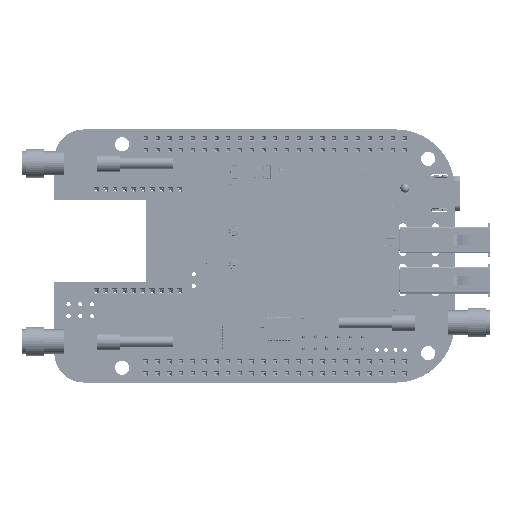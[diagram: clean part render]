
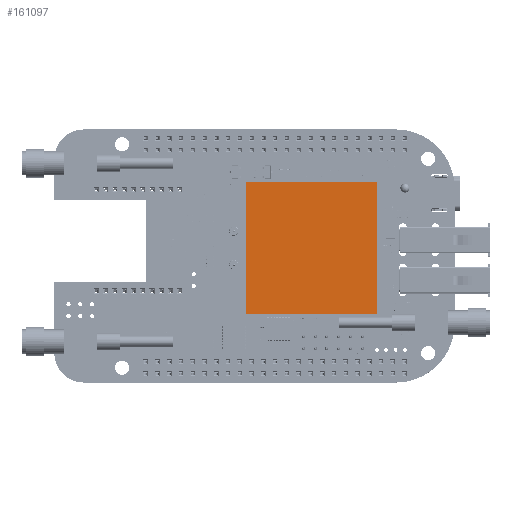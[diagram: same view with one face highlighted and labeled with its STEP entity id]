
A CAD part, top view. The second image highlights one B-rep face of the part: STEP entity #161097.
In plain terms, the highlighted planar face has unit normal (0, 0, 1).
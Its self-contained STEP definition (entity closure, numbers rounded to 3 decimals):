
#160857 = VERTEX_POINT('',#160858);
#160858 = CARTESIAN_POINT('',(0.278,26.392,3.825));
#160867 = PLANE('',#160868);
#160868 = AXIS2_PLACEMENT_3D('',#160869,#160870,#160871);
#160869 = CARTESIAN_POINT('',(0.278,26.392,3.825));
#160870 = DIRECTION('',(0.,-1.,0.));
#160871 = DIRECTION('',(0.,0.,-1.));
#160879 = PLANE('',#160880);
#160880 = AXIS2_PLACEMENT_3D('',#160881,#160882,#160883);
#160881 = CARTESIAN_POINT('',(0.278,26.392,1.575));
#160882 = DIRECTION('',(1.,0.,0.));
#160883 = DIRECTION('',(0.,0.,1.));
#160891 = EDGE_CURVE('',#160892,#160857,#160894,.T.);
#160892 = VERTEX_POINT('',#160893);
#160893 = CARTESIAN_POINT('',(28.678,26.392,3.825));
#160894 = SURFACE_CURVE('',#160895,(#160899,#160906),.PCURVE_S1.);
#160895 = LINE('',#160896,#160897);
#160896 = CARTESIAN_POINT('',(14.478,26.392,3.825));
#160897 = VECTOR('',#160898,1.);
#160898 = DIRECTION('',(-1.,0.,0.));
#160899 = PCURVE('',#160867,#160900);
#160900 = DEFINITIONAL_REPRESENTATION('',(#160901),#160905);
#160901 = LINE('',#160902,#160903);
#160902 = CARTESIAN_POINT('',(0.,14.2));
#160903 = VECTOR('',#160904,1.);
#160904 = DIRECTION('',(0.,-1.));
#160905 = ( GEOMETRIC_REPRESENTATION_CONTEXT(2) 
PARAMETRIC_REPRESENTATION_CONTEXT() REPRESENTATION_CONTEXT('2D SPACE',''
  ) );
#160906 = PCURVE('',#160907,#160912);
#160907 = PLANE('',#160908);
#160908 = AXIS2_PLACEMENT_3D('',#160909,#160910,#160911);
#160909 = CARTESIAN_POINT('',(0.278,-2.008,3.825));
#160910 = DIRECTION('',(0.,0.,-1.));
#160911 = DIRECTION('',(0.,1.,0.));
#160912 = DEFINITIONAL_REPRESENTATION('',(#160913),#160917);
#160913 = LINE('',#160914,#160915);
#160914 = CARTESIAN_POINT('',(28.4,14.2));
#160915 = VECTOR('',#160916,1.);
#160916 = DIRECTION('',(0.,-1.));
#160917 = ( GEOMETRIC_REPRESENTATION_CONTEXT(2) 
PARAMETRIC_REPRESENTATION_CONTEXT() REPRESENTATION_CONTEXT('2D SPACE',''
  ) );
#160935 = PLANE('',#160936);
#160936 = AXIS2_PLACEMENT_3D('',#160937,#160938,#160939);
#160937 = CARTESIAN_POINT('',(28.678,26.392,3.825));
#160938 = DIRECTION('',(-1.,0.,0.));
#160939 = DIRECTION('',(0.,0.,-1.));
#160994 = PLANE('',#160995);
#160995 = AXIS2_PLACEMENT_3D('',#160996,#160997,#160998);
#160996 = CARTESIAN_POINT('',(0.278,-2.008,1.575));
#160997 = DIRECTION('',(0.,1.,0.));
#160998 = DIRECTION('',(0.,0.,1.));
#161053 = VERTEX_POINT('',#161054);
#161054 = CARTESIAN_POINT('',(0.278,-2.008,3.825));
#161075 = EDGE_CURVE('',#160857,#161053,#161076,.T.);
#161076 = SURFACE_CURVE('',#161077,(#161081,#161088),.PCURVE_S1.);
#161077 = LINE('',#161078,#161079);
#161078 = CARTESIAN_POINT('',(0.278,12.192,3.825));
#161079 = VECTOR('',#161080,1.);
#161080 = DIRECTION('',(0.,-1.,0.));
#161081 = PCURVE('',#160879,#161082);
#161082 = DEFINITIONAL_REPRESENTATION('',(#161083),#161087);
#161083 = LINE('',#161084,#161085);
#161084 = CARTESIAN_POINT('',(2.25,14.2));
#161085 = VECTOR('',#161086,1.);
#161086 = DIRECTION('',(0.,1.));
#161087 = ( GEOMETRIC_REPRESENTATION_CONTEXT(2) 
PARAMETRIC_REPRESENTATION_CONTEXT() REPRESENTATION_CONTEXT('2D SPACE',''
  ) );
#161088 = PCURVE('',#160907,#161089);
#161089 = DEFINITIONAL_REPRESENTATION('',(#161090),#161094);
#161090 = LINE('',#161091,#161092);
#161091 = CARTESIAN_POINT('',(14.2,0.));
#161092 = VECTOR('',#161093,1.);
#161093 = DIRECTION('',(-1.,0.));
#161094 = ( GEOMETRIC_REPRESENTATION_CONTEXT(2) 
PARAMETRIC_REPRESENTATION_CONTEXT() REPRESENTATION_CONTEXT('2D SPACE',''
  ) );
#161097 = ADVANCED_FACE('',(#161098),#160907,.F.);
#161098 = FACE_BOUND('',#161099,.T.);
#161099 = EDGE_LOOP('',(#161100,#161101,#161124,#161145));
#161100 = ORIENTED_EDGE('',*,*,#161075,.T.);
#161101 = ORIENTED_EDGE('',*,*,#161102,.F.);
#161102 = EDGE_CURVE('',#161103,#161053,#161105,.T.);
#161103 = VERTEX_POINT('',#161104);
#161104 = CARTESIAN_POINT('',(28.678,-2.008,3.825));
#161105 = SURFACE_CURVE('',#161106,(#161110,#161117),.PCURVE_S1.);
#161106 = LINE('',#161107,#161108);
#161107 = CARTESIAN_POINT('',(14.478,-2.008,3.825));
#161108 = VECTOR('',#161109,1.);
#161109 = DIRECTION('',(-1.,0.,0.));
#161110 = PCURVE('',#160907,#161111);
#161111 = DEFINITIONAL_REPRESENTATION('',(#161112),#161116);
#161112 = LINE('',#161113,#161114);
#161113 = CARTESIAN_POINT('',(0.,14.2));
#161114 = VECTOR('',#161115,1.);
#161115 = DIRECTION('',(0.,-1.));
#161116 = ( GEOMETRIC_REPRESENTATION_CONTEXT(2) 
PARAMETRIC_REPRESENTATION_CONTEXT() REPRESENTATION_CONTEXT('2D SPACE',''
  ) );
#161117 = PCURVE('',#160994,#161118);
#161118 = DEFINITIONAL_REPRESENTATION('',(#161119),#161123);
#161119 = LINE('',#161120,#161121);
#161120 = CARTESIAN_POINT('',(2.25,14.2));
#161121 = VECTOR('',#161122,1.);
#161122 = DIRECTION('',(0.,-1.));
#161123 = ( GEOMETRIC_REPRESENTATION_CONTEXT(2) 
PARAMETRIC_REPRESENTATION_CONTEXT() REPRESENTATION_CONTEXT('2D SPACE',''
  ) );
#161124 = ORIENTED_EDGE('',*,*,#161125,.F.);
#161125 = EDGE_CURVE('',#160892,#161103,#161126,.T.);
#161126 = SURFACE_CURVE('',#161127,(#161131,#161138),.PCURVE_S1.);
#161127 = LINE('',#161128,#161129);
#161128 = CARTESIAN_POINT('',(28.678,12.192,3.825));
#161129 = VECTOR('',#161130,1.);
#161130 = DIRECTION('',(0.,-1.,0.));
#161131 = PCURVE('',#160907,#161132);
#161132 = DEFINITIONAL_REPRESENTATION('',(#161133),#161137);
#161133 = LINE('',#161134,#161135);
#161134 = CARTESIAN_POINT('',(14.2,28.4));
#161135 = VECTOR('',#161136,1.);
#161136 = DIRECTION('',(-1.,0.));
#161137 = ( GEOMETRIC_REPRESENTATION_CONTEXT(2) 
PARAMETRIC_REPRESENTATION_CONTEXT() REPRESENTATION_CONTEXT('2D SPACE',''
  ) );
#161138 = PCURVE('',#160935,#161139);
#161139 = DEFINITIONAL_REPRESENTATION('',(#161140),#161144);
#161140 = LINE('',#161141,#161142);
#161141 = CARTESIAN_POINT('',(0.,14.2));
#161142 = VECTOR('',#161143,1.);
#161143 = DIRECTION('',(0.,1.));
#161144 = ( GEOMETRIC_REPRESENTATION_CONTEXT(2) 
PARAMETRIC_REPRESENTATION_CONTEXT() REPRESENTATION_CONTEXT('2D SPACE',''
  ) );
#161145 = ORIENTED_EDGE('',*,*,#160891,.T.);
